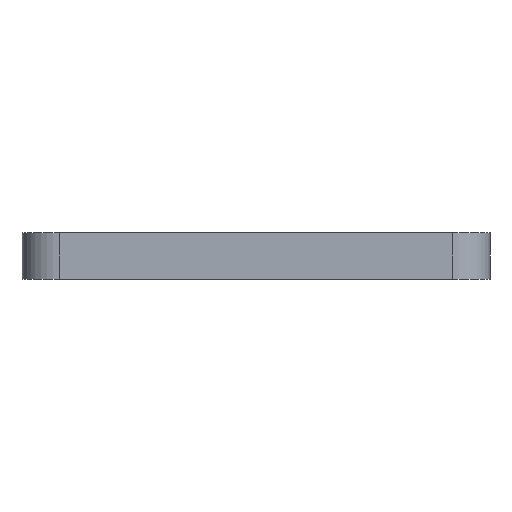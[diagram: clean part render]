
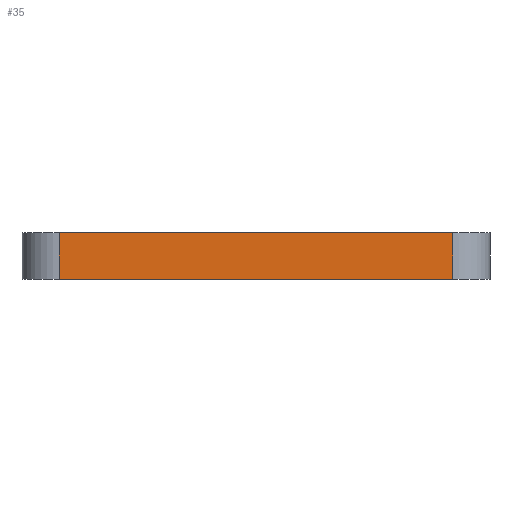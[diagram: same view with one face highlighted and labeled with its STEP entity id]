
A CAD part, left-side view. The second image highlights one B-rep face of the part: STEP entity #35.
In plain terms, the highlighted planar face has unit normal (-1, 0, 0).
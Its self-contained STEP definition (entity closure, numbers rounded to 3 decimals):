
#35 = ADVANCED_FACE('',(#36),#50,.F.);
#36 = FACE_BOUND('',#37,.F.);
#37 = EDGE_LOOP('',(#38,#73,#101,#129));
#38 = ORIENTED_EDGE('',*,*,#39,.F.);
#39 = EDGE_CURVE('',#40,#42,#44,.T.);
#40 = VERTEX_POINT('',#41);
#41 = CARTESIAN_POINT('',(-105.,-42.,53.));
#42 = VERTEX_POINT('',#43);
#43 = CARTESIAN_POINT('',(-105.,42.,53.));
#44 = SURFACE_CURVE('',#45,(#49,#61),.PCURVE_S1.);
#45 = LINE('',#46,#47);
#46 = CARTESIAN_POINT('',(-105.,-50.,53.));
#47 = VECTOR('',#48,1.);
#48 = DIRECTION('',(-0.,1.,0.));
#49 = PCURVE('',#50,#55);
#50 = PLANE('',#51);
#51 = AXIS2_PLACEMENT_3D('',#52,#53,#54);
#52 = CARTESIAN_POINT('',(-105.,-50.,43.));
#53 = DIRECTION('',(1.,0.,-0.));
#54 = DIRECTION('',(0.,0.,1.));
#55 = DEFINITIONAL_REPRESENTATION('',(#56),#60);
#56 = LINE('',#57,#58);
#57 = CARTESIAN_POINT('',(10.,0.));
#58 = VECTOR('',#59,1.);
#59 = DIRECTION('',(0.,-1.));
#60 = ( GEOMETRIC_REPRESENTATION_CONTEXT(2) 
PARAMETRIC_REPRESENTATION_CONTEXT() REPRESENTATION_CONTEXT('2D SPACE',''
  ) );
#61 = PCURVE('',#62,#67);
#62 = PLANE('',#63);
#63 = AXIS2_PLACEMENT_3D('',#64,#65,#66);
#64 = CARTESIAN_POINT('',(-105.,-50.,53.));
#65 = DIRECTION('',(0.,0.,1.));
#66 = DIRECTION('',(1.,0.,-0.));
#67 = DEFINITIONAL_REPRESENTATION('',(#68),#72);
#68 = LINE('',#69,#70);
#69 = CARTESIAN_POINT('',(0.,0.));
#70 = VECTOR('',#71,1.);
#71 = DIRECTION('',(0.,1.));
#72 = ( GEOMETRIC_REPRESENTATION_CONTEXT(2) 
PARAMETRIC_REPRESENTATION_CONTEXT() REPRESENTATION_CONTEXT('2D SPACE',''
  ) );
#73 = ORIENTED_EDGE('',*,*,#74,.F.);
#74 = EDGE_CURVE('',#75,#40,#77,.T.);
#75 = VERTEX_POINT('',#76);
#76 = CARTESIAN_POINT('',(-105.,-42.,43.));
#77 = SURFACE_CURVE('',#78,(#82,#89),.PCURVE_S1.);
#78 = LINE('',#79,#80);
#79 = CARTESIAN_POINT('',(-105.,-42.,43.));
#80 = VECTOR('',#81,1.);
#81 = DIRECTION('',(0.,0.,1.));
#82 = PCURVE('',#50,#83);
#83 = DEFINITIONAL_REPRESENTATION('',(#84),#88);
#84 = LINE('',#85,#86);
#85 = CARTESIAN_POINT('',(0.,-8.));
#86 = VECTOR('',#87,1.);
#87 = DIRECTION('',(1.,0.));
#88 = ( GEOMETRIC_REPRESENTATION_CONTEXT(2) 
PARAMETRIC_REPRESENTATION_CONTEXT() REPRESENTATION_CONTEXT('2D SPACE',''
  ) );
#89 = PCURVE('',#90,#95);
#90 = CYLINDRICAL_SURFACE('',#91,8.);
#91 = AXIS2_PLACEMENT_3D('',#92,#93,#94);
#92 = CARTESIAN_POINT('',(-97.,-42.,43.));
#93 = DIRECTION('',(0.,0.,1.));
#94 = DIRECTION('',(-1.,-0.,0.));
#95 = DEFINITIONAL_REPRESENTATION('',(#96),#100);
#96 = LINE('',#97,#98);
#97 = CARTESIAN_POINT('',(0.,0.));
#98 = VECTOR('',#99,1.);
#99 = DIRECTION('',(0.,1.));
#100 = ( GEOMETRIC_REPRESENTATION_CONTEXT(2) 
PARAMETRIC_REPRESENTATION_CONTEXT() REPRESENTATION_CONTEXT('2D SPACE',''
  ) );
#101 = ORIENTED_EDGE('',*,*,#102,.T.);
#102 = EDGE_CURVE('',#75,#103,#105,.T.);
#103 = VERTEX_POINT('',#104);
#104 = CARTESIAN_POINT('',(-105.,42.,43.));
#105 = SURFACE_CURVE('',#106,(#110,#117),.PCURVE_S1.);
#106 = LINE('',#107,#108);
#107 = CARTESIAN_POINT('',(-105.,-50.,43.));
#108 = VECTOR('',#109,1.);
#109 = DIRECTION('',(-0.,1.,0.));
#110 = PCURVE('',#50,#111);
#111 = DEFINITIONAL_REPRESENTATION('',(#112),#116);
#112 = LINE('',#113,#114);
#113 = CARTESIAN_POINT('',(0.,0.));
#114 = VECTOR('',#115,1.);
#115 = DIRECTION('',(0.,-1.));
#116 = ( GEOMETRIC_REPRESENTATION_CONTEXT(2) 
PARAMETRIC_REPRESENTATION_CONTEXT() REPRESENTATION_CONTEXT('2D SPACE',''
  ) );
#117 = PCURVE('',#118,#123);
#118 = PLANE('',#119);
#119 = AXIS2_PLACEMENT_3D('',#120,#121,#122);
#120 = CARTESIAN_POINT('',(-105.,-50.,43.));
#121 = DIRECTION('',(0.,0.,1.));
#122 = DIRECTION('',(1.,0.,-0.));
#123 = DEFINITIONAL_REPRESENTATION('',(#124),#128);
#124 = LINE('',#125,#126);
#125 = CARTESIAN_POINT('',(0.,0.));
#126 = VECTOR('',#127,1.);
#127 = DIRECTION('',(0.,1.));
#128 = ( GEOMETRIC_REPRESENTATION_CONTEXT(2) 
PARAMETRIC_REPRESENTATION_CONTEXT() REPRESENTATION_CONTEXT('2D SPACE',''
  ) );
#129 = ORIENTED_EDGE('',*,*,#130,.T.);
#130 = EDGE_CURVE('',#103,#42,#131,.T.);
#131 = SURFACE_CURVE('',#132,(#136,#143),.PCURVE_S1.);
#132 = LINE('',#133,#134);
#133 = CARTESIAN_POINT('',(-105.,42.,43.));
#134 = VECTOR('',#135,1.);
#135 = DIRECTION('',(0.,0.,1.));
#136 = PCURVE('',#50,#137);
#137 = DEFINITIONAL_REPRESENTATION('',(#138),#142);
#138 = LINE('',#139,#140);
#139 = CARTESIAN_POINT('',(0.,-92.));
#140 = VECTOR('',#141,1.);
#141 = DIRECTION('',(1.,0.));
#142 = ( GEOMETRIC_REPRESENTATION_CONTEXT(2) 
PARAMETRIC_REPRESENTATION_CONTEXT() REPRESENTATION_CONTEXT('2D SPACE',''
  ) );
#143 = PCURVE('',#144,#149);
#144 = CYLINDRICAL_SURFACE('',#145,8.);
#145 = AXIS2_PLACEMENT_3D('',#146,#147,#148);
#146 = CARTESIAN_POINT('',(-97.,42.,43.));
#147 = DIRECTION('',(0.,0.,1.));
#148 = DIRECTION('',(-1.,-0.,0.));
#149 = DEFINITIONAL_REPRESENTATION('',(#150),#154);
#150 = LINE('',#151,#152);
#151 = CARTESIAN_POINT('',(-0.,0.));
#152 = VECTOR('',#153,1.);
#153 = DIRECTION('',(-0.,1.));
#154 = ( GEOMETRIC_REPRESENTATION_CONTEXT(2) 
PARAMETRIC_REPRESENTATION_CONTEXT() REPRESENTATION_CONTEXT('2D SPACE',''
  ) );
